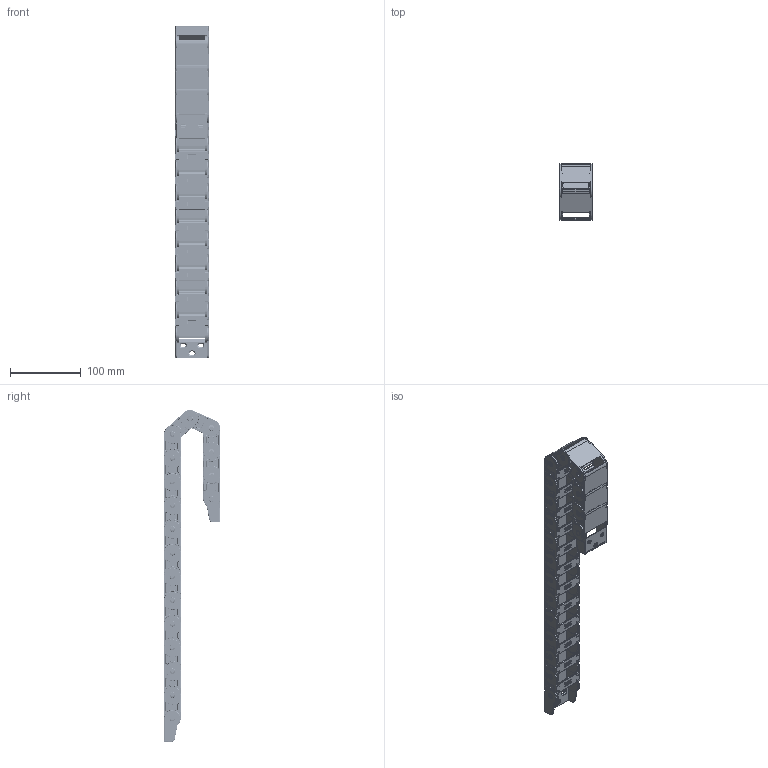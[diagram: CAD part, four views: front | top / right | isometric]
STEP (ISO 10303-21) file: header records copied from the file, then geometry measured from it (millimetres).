
FILE_DESCRIPTION (( 'STEP AP203' ), '1' );
FILE_NAME ('5F-J18BF.1.37N-3D郪璃芞.STEP', '2017-04-17T08:06:38', ( 'china' ), ( 'china' ), 'SwSTEP 2.0', 'SolidWorks 2016', '' );
FILE_SCHEMA (( 'CONFIG_CONTROL_DESIGN' ));
Length unit declared in the file: millimetre
Products named in the file (5): F-18BFX37-翋极芞; 18X37BF-FW-1; J18BF.1.37XJT-N-FW; J18BF.1.37XJT-W-FW; 5F-J18BF.1.37N-3D郪璃芞
Assembly tree (20 placements, depth 3):
  5F-J18BF.1.37N-3D郪璃芞
    18X37BF-FW-1  x17
      F-18BFX37-翋极芞
    J18BF.1.37XJT-N-FW
    J18BF.1.37XJT-W-FW
Bounding box: 47.85 x 79 x 469.17 mm (x, y, z)
Volume: 188738.7 mm3; surface area: 190584.1 mm2
Topology: 19 solids, 19 shells, 6277 faces, 16152 edges, 10198 vertices
Faces by surface type: plane 2716, bspline 1519, cylinder 1436, torus 284, cone 250, sphere 72
Entity records: 20558 total; most frequent: CARTESIAN_POINT 7524, ORIENTED_EDGE 2616, DIRECTION 2368, EDGE_CURVE 1308, VERTEX_POINT 822, AXIS2_PLACEMENT_3D 806, LINE 756, VECTOR 756
